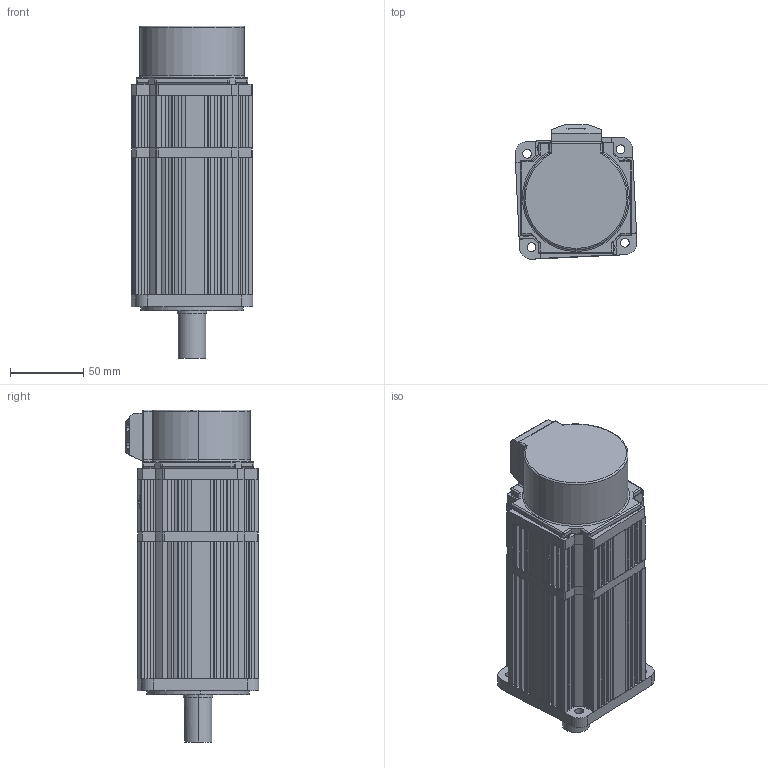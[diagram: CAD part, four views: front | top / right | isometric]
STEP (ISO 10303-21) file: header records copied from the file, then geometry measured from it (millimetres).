
FILE_DESCRIPTION (( 'STEP AP203' ), '1' );
FILE_NAME ('80-2.4N.M抱闸装配.STEP', '2019-04-19T08:26:18', ( '微软用户' ), ( '微软中国' ), 'SwSTEP 2.0', 'SolidWorks 2016', '' );
FILE_SCHEMA (( 'CONFIG_CONTROL_DESIGN' ));
Length unit declared in the file: millimetre
Products named in the file (11): 80晤鎢ん欶; 80 綴裔; 80儂褲 ㄗ惕掅ㄘ; 80ヶ裔; 80儂褲; 6004; 80堤盄揤啣ㄗ奻ㄘ; 80 2.4N.M惕掅粣; 80堤盄揤啣ㄗ狟ㄘ; 80 綴裔ㄗ惕掅ㄘ; 80-2.4N.M惕掅蚾饜
Assembly tree (10 placements, depth 2):
  80-2.4N.M惕掅蚾饜
    80 2.4N.M惕掅粣
    80 綴裔ㄗ惕掅ㄘ
    80晤鎢ん欶
    80 綴裔
    80儂褲 ㄗ惕掅ㄘ
    80ヶ裔
    80儂褲
    6004
    80堤盄揤啣ㄗ奻ㄘ
    80堤盄揤啣ㄗ狟ㄘ
Bounding box: 82.96 x 91.18 x 226 mm (x, y, z)
Volume: 387070.4 mm3; surface area: 221580 mm2
Topology: 10 solids, 11 shells, 1248 faces, 3264 edges, 2049 vertices
Faces by surface type: plane 546, cylinder 473, torus 159, cone 44, sphere 22, bspline 4
Entity records: 40264 total; most frequent: CARTESIAN_POINT 7717, DIRECTION 6858, ORIENTED_EDGE 6434, EDGE_CURVE 3217, AXIS2_PLACEMENT_3D 2489, VERTEX_POINT 2049, LINE 1880, VECTOR 1880
